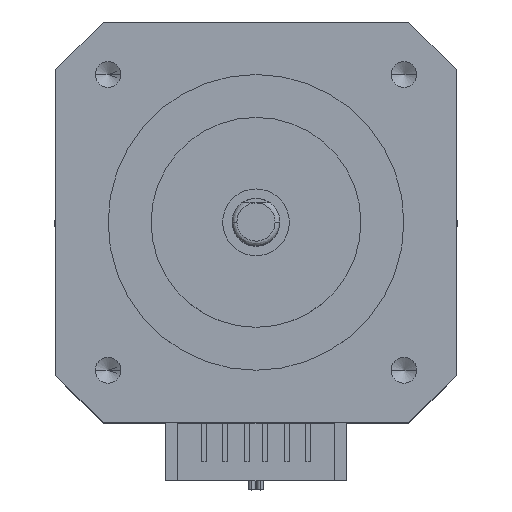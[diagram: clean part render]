
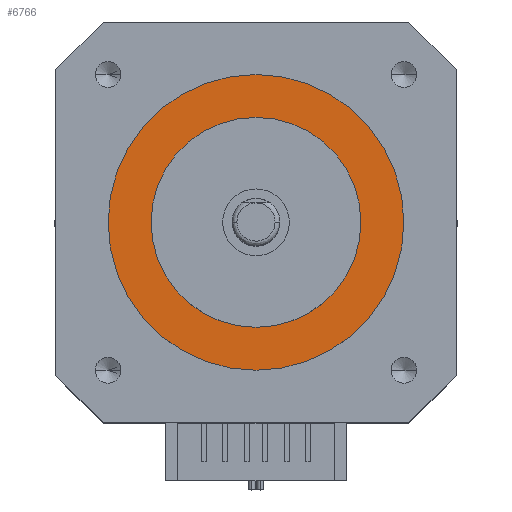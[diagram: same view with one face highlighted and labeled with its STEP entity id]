
A CAD part, top view. The second image highlights one B-rep face of the part: STEP entity #6766.
In plain terms, the highlighted planar face has unit normal (0, 0, 1).
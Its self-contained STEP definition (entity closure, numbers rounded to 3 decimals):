
#20 = DIRECTION ( 'NONE',  ( 0., 0., 1. ) ) ;
#290 = CARTESIAN_POINT ( 'NONE',  ( 11., 0., 3.9 ) ) ;
#301 = VERTEX_POINT ( 'NONE', #1552 ) ;
#546 = DIRECTION ( 'NONE',  ( 0., 0., -1. ) ) ;
#902 = CARTESIAN_POINT ( 'NONE',  ( -15.5, 0., 3.9 ) ) ;
#1055 = ORIENTED_EDGE ( 'NONE', *, *, #3286, .F. ) ;
#1056 = ORIENTED_EDGE ( 'NONE', *, *, #3260, .T. ) ;
#1282 = CARTESIAN_POINT ( 'NONE',  ( 0., 0., 3.9 ) ) ;
#1552 = CARTESIAN_POINT ( 'NONE',  ( -11., 0., 3.9 ) ) ;
#1898 = AXIS2_PLACEMENT_3D ( 'NONE', #2402, #3790, #3760 ) ;
#2320 = DIRECTION ( 'NONE',  ( 1., 0., 0. ) ) ;
#2353 = CARTESIAN_POINT ( 'NONE',  ( 0., 0., 3.9 ) ) ;
#2402 = CARTESIAN_POINT ( 'NONE',  ( 0., 0., 3.9 ) ) ;
#2744 = DIRECTION ( 'NONE',  ( -1., 0., 0. ) ) ;
#3260 = EDGE_CURVE ( 'NONE', #5231, #5919, #7099, .T. ) ;
#3286 = EDGE_CURVE ( 'NONE', #8919, #301, #3313, .T. ) ;
#3313 = CIRCLE ( 'NONE', #1898, 11. ) ;
#3406 = PLANE ( 'NONE',  #4170 ) ;
#3664 = CARTESIAN_POINT ( 'NONE',  ( 0., 0., 3.9 ) ) ;
#3690 = FACE_BOUND ( 'NONE', #8865, .T. ) ;
#3760 = DIRECTION ( 'NONE',  ( -1., 0., 0. ) ) ;
#3790 = DIRECTION ( 'NONE',  ( 0., 0., 1. ) ) ;
#4170 = AXIS2_PLACEMENT_3D ( 'NONE', #1282, #546, #8454 ) ;
#4578 = CIRCLE ( 'NONE', #7040, 11. ) ;
#4672 = EDGE_LOOP ( 'NONE', ( #6531, #1056 ) ) ;
#4904 = FACE_OUTER_BOUND ( 'NONE', #4672, .T. ) ;
#5021 = DIRECTION ( 'NONE',  ( 1., 0., 0. ) ) ;
#5231 = VERTEX_POINT ( 'NONE', #902 ) ;
#5596 = DIRECTION ( 'NONE',  ( 0., 0., 1. ) ) ;
#5681 = CARTESIAN_POINT ( 'NONE',  ( 15.5, 0., 3.9 ) ) ;
#5919 = VERTEX_POINT ( 'NONE', #5681 ) ;
#6531 = ORIENTED_EDGE ( 'NONE', *, *, #7059, .T. ) ;
#6766 = ADVANCED_FACE ( 'NONE', ( #3690, #4904 ), #3406, .F. ) ;
#6798 = EDGE_CURVE ( 'NONE', #301, #8919, #4578, .T. ) ;
#7040 = AXIS2_PLACEMENT_3D ( 'NONE', #7665, #5596, #2744 ) ;
#7059 = EDGE_CURVE ( 'NONE', #5919, #5231, #7695, .T. ) ;
#7099 = CIRCLE ( 'NONE', #8758, 15.5 ) ;
#7259 = DIRECTION ( 'NONE',  ( 0., 0., 1. ) ) ;
#7397 = AXIS2_PLACEMENT_3D ( 'NONE', #2353, #7259, #2320 ) ;
#7610 = ORIENTED_EDGE ( 'NONE', *, *, #6798, .F. ) ;
#7665 = CARTESIAN_POINT ( 'NONE',  ( 0., 0., 3.9 ) ) ;
#7695 = CIRCLE ( 'NONE', #7397, 15.5 ) ;
#8454 = DIRECTION ( 'NONE',  ( -1., 0., 0. ) ) ;
#8758 = AXIS2_PLACEMENT_3D ( 'NONE', #3664, #20, #5021 ) ;
#8865 = EDGE_LOOP ( 'NONE', ( #7610, #1055 ) ) ;
#8919 = VERTEX_POINT ( 'NONE', #290 ) ;
